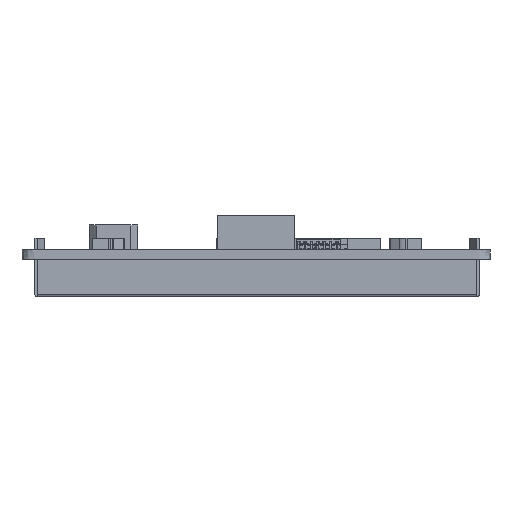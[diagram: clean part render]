
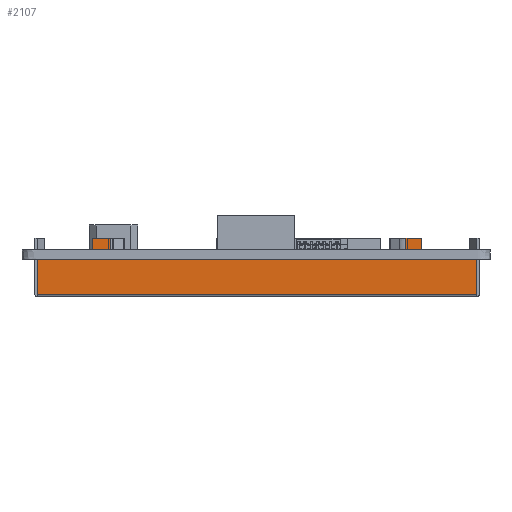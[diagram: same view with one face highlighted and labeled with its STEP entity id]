
A CAD part, left-side view. The second image highlights one B-rep face of the part: STEP entity #2107.
In plain terms, the highlighted planar face has unit normal (-1, 0, 0).
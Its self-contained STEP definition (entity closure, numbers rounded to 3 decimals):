
#2107=ADVANCED_FACE('',(#4130),#3021,.F.);
#3021=PLANE('',#24853);
#4130=FACE_OUTER_BOUND('',#5290,.T.);
#5290=EDGE_LOOP('',(#11551,#11552,#11553,#11554,#11555,#11556,#11557,#11558,
#11559,#11560,#11561,#11562,#11563,#11564,#11565,#11566));
#11551=ORIENTED_EDGE('',*,*,#17564,.F.);
#11552=ORIENTED_EDGE('',*,*,#17565,.T.);
#11553=ORIENTED_EDGE('',*,*,#17566,.T.);
#11554=ORIENTED_EDGE('',*,*,#17561,.T.);
#11555=ORIENTED_EDGE('',*,*,#17567,.T.);
#11556=ORIENTED_EDGE('',*,*,#17568,.F.);
#11557=ORIENTED_EDGE('',*,*,#17569,.T.);
#11558=ORIENTED_EDGE('',*,*,#17570,.F.);
#11559=ORIENTED_EDGE('',*,*,#17571,.F.);
#11560=ORIENTED_EDGE('',*,*,#17557,.T.);
#11561=ORIENTED_EDGE('',*,*,#17572,.T.);
#11562=ORIENTED_EDGE('',*,*,#17573,.T.);
#11563=ORIENTED_EDGE('',*,*,#17574,.F.);
#11564=ORIENTED_EDGE('',*,*,#17575,.F.);
#11565=ORIENTED_EDGE('',*,*,#17576,.F.);
#11566=ORIENTED_EDGE('',*,*,#17555,.T.);
#14455=VERTEX_POINT('',#36647);
#14457=VERTEX_POINT('',#36651);
#14458=VERTEX_POINT('',#36655);
#14460=VERTEX_POINT('',#36658);
#14462=VERTEX_POINT('',#36664);
#14464=VERTEX_POINT('',#36667);
#14466=VERTEX_POINT('',#36673);
#14467=VERTEX_POINT('',#36675);
#14468=VERTEX_POINT('',#36678);
#14469=VERTEX_POINT('',#36680);
#14470=VERTEX_POINT('',#36682);
#14471=VERTEX_POINT('',#36684);
#14472=VERTEX_POINT('',#36687);
#14473=VERTEX_POINT('',#36689);
#14474=VERTEX_POINT('',#36691);
#14475=VERTEX_POINT('',#36693);
#17555=EDGE_CURVE('',#14455,#14457,#20348,.T.);
#17557=EDGE_CURVE('',#14460,#14458,#20350,.T.);
#17561=EDGE_CURVE('',#14464,#14462,#20354,.T.);
#17564=EDGE_CURVE('',#14466,#14457,#20357,.T.);
#17565=EDGE_CURVE('',#14466,#14467,#20358,.T.);
#17566=EDGE_CURVE('',#14467,#14464,#20359,.T.);
#17567=EDGE_CURVE('',#14462,#14468,#20360,.T.);
#17568=EDGE_CURVE('',#14469,#14468,#20361,.T.);
#17569=EDGE_CURVE('',#14469,#14470,#20362,.T.);
#17570=EDGE_CURVE('',#14471,#14470,#20363,.T.);
#17571=EDGE_CURVE('',#14460,#14471,#20364,.T.);
#17572=EDGE_CURVE('',#14458,#14472,#20365,.T.);
#17573=EDGE_CURVE('',#14472,#14473,#20366,.T.);
#17574=EDGE_CURVE('',#14474,#14473,#20367,.T.);
#17575=EDGE_CURVE('',#14475,#14474,#20368,.T.);
#17576=EDGE_CURVE('',#14455,#14475,#20369,.T.);
#20348=LINE('',#36652,#22992);
#20350=LINE('',#36657,#22994);
#20354=LINE('',#36666,#22998);
#20357=LINE('',#36672,#23001);
#20358=LINE('',#36674,#23002);
#20359=LINE('',#36676,#23003);
#20360=LINE('',#36677,#23004);
#20361=LINE('',#36679,#23005);
#20362=LINE('',#36681,#23006);
#20363=LINE('',#36683,#23007);
#20364=LINE('',#36685,#23008);
#20365=LINE('',#36686,#23009);
#20366=LINE('',#36688,#23010);
#20367=LINE('',#36690,#23011);
#20368=LINE('',#36692,#23012);
#20369=LINE('',#36694,#23013);
#22992=VECTOR('',#30212,1.);
#22994=VECTOR('',#30216,1.);
#22998=VECTOR('',#30222,1.);
#23001=VECTOR('',#30227,1.);
#23002=VECTOR('',#30228,1.);
#23003=VECTOR('',#30229,1.);
#23004=VECTOR('',#30230,1.);
#23005=VECTOR('',#30231,1.);
#23006=VECTOR('',#30232,1.);
#23007=VECTOR('',#30233,1.);
#23008=VECTOR('',#30234,1.);
#23009=VECTOR('',#30235,1.);
#23010=VECTOR('',#30236,1.);
#23011=VECTOR('',#30237,1.);
#23012=VECTOR('',#30238,1.);
#23013=VECTOR('',#30239,1.);
#24853=AXIS2_PLACEMENT_3D('',#36695,#30240,#30241);
#30212=DIRECTION('',(0.,1.,0.));
#30216=DIRECTION('',(0.,1.,0.));
#30222=DIRECTION('',(0.,1.,0.));
#30227=DIRECTION('',(0.,0.,1.));
#30228=DIRECTION('',(0.,-1.,0.));
#30229=DIRECTION('',(0.,0.,1.));
#30230=DIRECTION('',(0.,0.,1.));
#30231=DIRECTION('',(0.,-1.,0.));
#30232=DIRECTION('',(0.,0.,-1.));
#30233=DIRECTION('',(0.,-1.,0.));
#30234=DIRECTION('',(0.,0.,1.));
#30235=DIRECTION('',(0.,0.,1.));
#30236=DIRECTION('',(0.,-1.,0.));
#30237=DIRECTION('',(0.,0.,-1.));
#30238=DIRECTION('',(0.,-1.,0.));
#30239=DIRECTION('',(0.,0.,1.));
#30240=DIRECTION('',(1.,0.,0.));
#30241=DIRECTION('',(0.,-1.,0.));
#36647=CARTESIAN_POINT('',(59.66,45.295,-1.6));
#36651=CARTESIAN_POINT('',(59.66,54.82,-1.6));
#36652=CARTESIAN_POINT('',(59.66,-21.2,-1.6));
#36655=CARTESIAN_POINT('',(59.66,42.295,-1.6));
#36657=CARTESIAN_POINT('',(59.66,-21.2,-1.6));
#36658=CARTESIAN_POINT('',(59.66,-8.635,-1.6));
#36664=CARTESIAN_POINT('',(59.66,-11.635,-1.6));
#36666=CARTESIAN_POINT('',(59.66,-21.2,-1.6));
#36667=CARTESIAN_POINT('',(59.66,-21.2,-1.6));
#36672=CARTESIAN_POINT('',(59.66,54.82,-8.1));
#36673=CARTESIAN_POINT('',(59.66,54.82,-7.7));
#36674=CARTESIAN_POINT('',(59.66,-21.2,-7.7));
#36675=CARTESIAN_POINT('',(59.66,-21.2,-7.7));
#36676=CARTESIAN_POINT('',(59.66,-21.2,-8.1));
#36677=CARTESIAN_POINT('',(59.66,-11.635,-1.6));
#36678=CARTESIAN_POINT('',(59.66,-11.635,2.));
#36679=CARTESIAN_POINT('',(59.66,-8.924,2.));
#36680=CARTESIAN_POINT('',(59.66,-8.924,2.));
#36681=CARTESIAN_POINT('',(59.66,-8.924,2.));
#36682=CARTESIAN_POINT('',(59.66,-8.924,0.));
#36683=CARTESIAN_POINT('',(59.66,-8.635,0.));
#36684=CARTESIAN_POINT('',(59.66,-8.635,0.));
#36685=CARTESIAN_POINT('',(59.66,-8.635,-1.6));
#36686=CARTESIAN_POINT('',(59.66,42.295,-1.6));
#36687=CARTESIAN_POINT('',(59.66,42.295,0.));
#36688=CARTESIAN_POINT('',(59.66,45.295,0.));
#36689=CARTESIAN_POINT('',(59.66,42.191,0.));
#36690=CARTESIAN_POINT('',(59.66,42.191,2.));
#36691=CARTESIAN_POINT('',(59.66,42.191,2.));
#36692=CARTESIAN_POINT('',(59.66,45.295,2.));
#36693=CARTESIAN_POINT('',(59.66,45.295,2.));
#36694=CARTESIAN_POINT('',(59.66,45.295,-1.6));
#36695=CARTESIAN_POINT('',(59.66,-21.2,-8.1));
